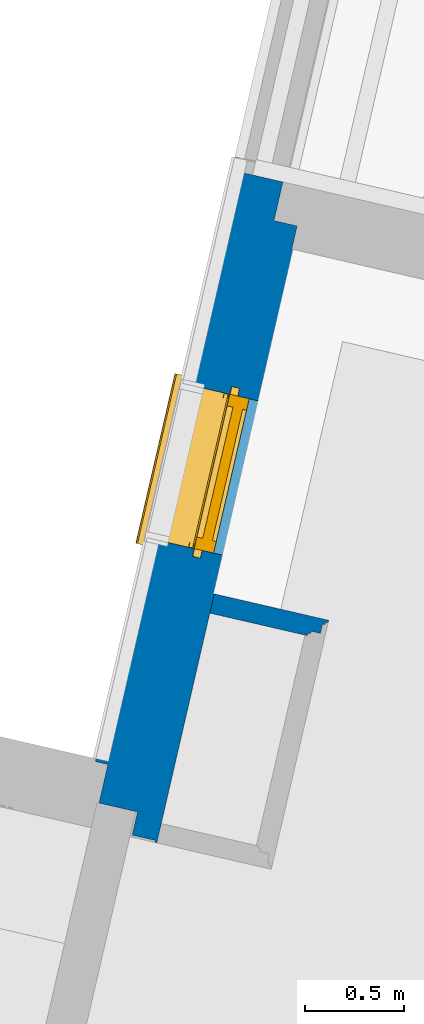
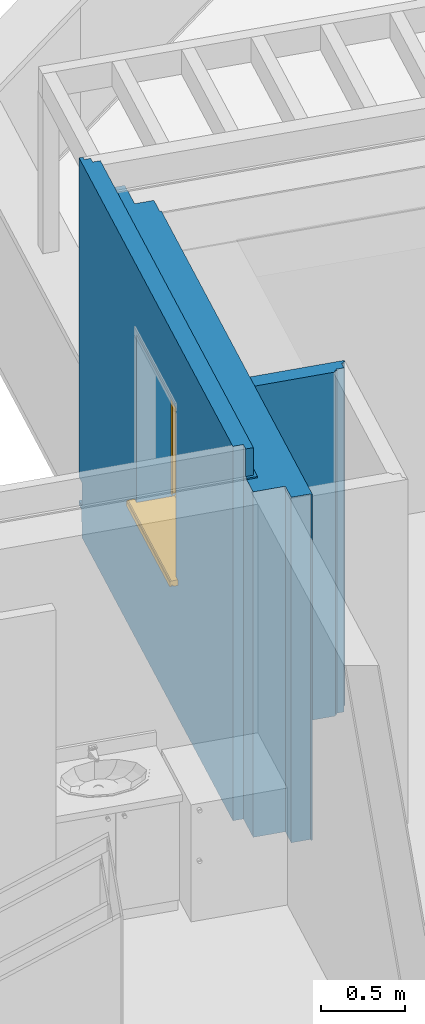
# One storey, part 33 of 62: 2 walls, 1 window, 1 opening.
"""IFC2X3 building model written with IfcOpenShell, lengths in metres."""

import ifcopenshell
import ifcopenshell.guid

model = None  # the IFC model being written
_history = None  # IfcOwnerHistory: only IFC2X3 demands one
_inside = {}  # id of a spatial element -> (the spatial element, [elements in it])
_under = {}  # id of a project, library or spatial element -> (it, [spatial elements below it])
_declared = {}  # id of a project -> (the project, [libraries it declares])
_typed = {}  # id of a type object -> (the type object, [elements of that type])
_made_of = {}  # id of a material, layer set ... -> (it, [elements and type objects made of it])


def new_model(schema):
    """Start an empty IFC model of exactly this schema.

    Asked for "IFC4X3", IfcOpenShell would pick the latest addendum, in which some entities
    have other attributes; the version numbers below select the first issue.
    IFC2X3 requires an IfcOwnerHistory on every rooted entity: one is made here for all.
    """
    global model, _history
    if schema == "IFC4X3":
        model = ifcopenshell.file(schema_version=(4, 3, 0, 0))
    else:
        model = ifcopenshell.file(schema=schema)
    _inside.clear()
    _under.clear()
    _declared.clear()
    _typed.clear()
    _made_of.clear()
    _history = None
    if model.schema == "IFC2X3":
        org = make("IfcOrganization", Name="unknown")
        user = make(
            "IfcPersonAndOrganization",
            ThePerson=make("IfcPerson", FamilyName="unknown"),
            TheOrganization=org,
        )
        app = make(
            "IfcApplication",
            ApplicationDeveloper=org,
            Version="unknown",
            ApplicationFullName="unknown",
            ApplicationIdentifier="unknown",
        )
        _history = make(
            "IfcOwnerHistory",
            OwningUser=user,
            OwningApplication=app,
            ChangeAction="ADDED",
            CreationDate=0,
        )
    return model


def make(cls, **values):
    """One entity of the class cls with the attributes given. An attribute that is None is left unset."""
    return model.create_entity(
        cls, **{name: value for name, value in values.items() if value is not None}
    )


def entity(cls, *values):
    """Any entity or typed value of the class cls, its attributes in the order of the schema. None: left unset."""
    e = model.create_entity(cls)
    for i, value in enumerate(values):
        if value is not None:
            e[i] = value
    return e


def rooted(cls, **values):
    """An entity with a GlobalId (a new one), such as an element, a storey or a relation."""
    return make(cls, GlobalId=ifcopenshell.guid.new(), OwnerHistory=_history, **values)


def si_unit(unit_type, name, prefix=None):
    """IfcSIUnit, for example si_unit("LENGTHUNIT", "METRE", prefix="MILLI")."""
    return make("IfcSIUnit", UnitType=unit_type, Prefix=prefix, Name=name)


def converted_unit(unit_type, name, factor, base, dimensions=None, offset=None):
    """IfcConversionBasedUnit, such as the inch: factor (a typed value) times the base unit."""
    return make(
        "IfcConversionBasedUnit"
        if offset is None
        else "IfcConversionBasedUnitWithOffset",
        ConversionOffset=offset,
        Dimensions=None
        if dimensions is None
        else entity("IfcDimensionalExponents", *dimensions),
        UnitType=unit_type,
        Name=name,
        ConversionFactor=make(
            "IfcMeasureWithUnit", ValueComponent=factor, UnitComponent=base
        ),
    )


def derived_unit(unit_type, elements):
    """IfcDerivedUnit: a product of units, each with its exponent."""
    return make(
        "IfcDerivedUnit",
        Elements=[
            make("IfcDerivedUnitElement", Unit=unit, Exponent=power)
            for unit, power in elements
        ],
        UnitType=unit_type,
    )


def money_unit(currency):
    """IfcMonetaryUnit."""
    return make("IfcMonetaryUnit", Currency=currency)


def assignment(units):
    """IfcUnitAssignment: the units of a project."""
    return None if units is None else make("IfcUnitAssignment", Units=units)


def point(xyz):
    """IfcCartesianPoint."""
    return None if xyz is None else make("IfcCartesianPoint", Coordinates=xyz)


def direction(xyz):
    """IfcDirection."""
    return None if xyz is None else make("IfcDirection", DirectionRatios=xyz)


def frame(location, z_axis=None, x_axis=None):
    """IfcAxis2Placement3D, a coordinate frame: its origin and axes. An axis left out is left unset."""
    return make(
        "IfcAxis2Placement3D",
        Location=point(location),
        Axis=direction(z_axis),
        RefDirection=direction(x_axis),
    )


def origin_with_axes():
    """The frame at (0, 0, 0) with the z axis (0, 0, 1) and the x axis (1, 0, 0) written out."""
    return frame((0.0, 0.0, 0.0), z_axis=(0.0, 0.0, 1.0), x_axis=(1.0, 0.0, 0.0))


def place(relative_to, where):
    """IfcLocalPlacement: puts the frame where relative to a parent placement (None: the world)."""
    return make(
        "IfcLocalPlacement", PlacementRelTo=relative_to, RelativePlacement=where
    )


def context(
    kind, dimensions, precision=None, world=None, true_north=None, identifier=None
):
    """IfcGeometricRepresentationContext, for example the 3D "Model" context."""
    return make(
        "IfcGeometricRepresentationContext",
        ContextIdentifier=identifier,
        ContextType=kind,
        CoordinateSpaceDimension=dimensions,
        Precision=precision,
        WorldCoordinateSystem=world,
        TrueNorth=true_north,
    )


def subcontext(parent, identifier, kind, view, scale=None):
    """IfcGeometricRepresentationSubContext, for example "Body" below "Model"."""
    return make(
        "IfcGeometricRepresentationSubContext",
        ContextIdentifier=identifier,
        ContextType=kind,
        ParentContext=parent,
        TargetScale=scale,
        TargetView=view,
    )


def project(units=None, contexts=None):
    """IfcProject with its units and contexts."""
    return rooted(
        "IfcProject",
        Name="project",
        RepresentationContexts=contexts,
        UnitsInContext=assignment(units),
    )


def spatial(cls, under=None, at=None, **own):
    """A site, building, storey or space (cls), placed at a placement, below another one or the project."""
    s = rooted(cls, ObjectPlacement=at, **own)
    if under is not None:
        _under.setdefault(under.id(), (under, []))[1].append(s)
    return s


def faces_of(points, faces, orient=None, outer=None):
    """IfcFace entities. A face is a list of loops; a loop is a list of indices into points, from 0.

    orient and outer hold one flag for each loop. By default every Orientation is true, the
    first loop of a face is its IfcFaceOuterBound and the others are IfcFaceBound.
    """
    made = []
    for i, loops in enumerate(faces):
        bounds = []
        for j, loop in enumerate(loops):
            is_outer = j == 0 if outer is None else outer[i][j]
            bounds.append(
                make(
                    "IfcFaceOuterBound" if is_outer else "IfcFaceBound",
                    Bound=make("IfcPolyLoop", Polygon=[points[k] for k in loop]),
                    Orientation=True if orient is None else orient[i][j],
                )
            )
        made.append(make("IfcFace", Bounds=bounds))
    return made


def open_shell(faces, orient=None, outer=None):
    """The faces of one IfcOpenShell. surface_model builds it on its shared points."""
    return ("IfcOpenShell", faces, orient, outer)


def faceted_brep(points, faces, orient=None, outer=None, voids=None):
    """IfcFacetedBrep: a solid bounded by flat faces; with voids (closed shells), ...WithVoids."""
    shared = [point(p) for p in points]
    hull = make("IfcClosedShell", CfsFaces=faces_of(shared, faces, orient, outer))
    if voids is None:
        return make("IfcFacetedBrep", Outer=hull)
    return make(
        "IfcFacetedBrepWithVoids",
        Outer=hull,
        Voids=[
            make(cls, CfsFaces=faces_of(shared, fs, o, b)) for cls, fs, o, b in voids
        ],
    )


def surface_model(cls, points, shells):
    """IfcFaceBasedSurfaceModel or IfcShellBasedSurfaceModel (cls): surfaces that need not close."""
    shared = [point(p) for p in points]
    made = [make(c, CfsFaces=faces_of(shared, fs, o, b)) for c, fs, o, b in shells]
    if cls == "IfcFaceBasedSurfaceModel":
        return make(cls, FbsmFaces=made)
    return make(cls, SbsmBoundary=made)


def shape(context_of_items, identifier, shape_type, items):
    """IfcShapeRepresentation: the items that make up one representation, for example the "Body"."""
    return make(
        "IfcShapeRepresentation",
        ContextOfItems=context_of_items,
        RepresentationIdentifier=identifier,
        RepresentationType=shape_type,
        Items=items,
    )


def material(Name=None, Category=None):
    """IfcMaterial."""
    return make("IfcMaterial", Name=Name, Category=Category)


def material_list(materials):
    """IfcMaterialList."""
    return make("IfcMaterialList", Materials=materials)


def made_of(thing, what):
    """Note that an element or type object is made of a material, layer set ...; save() writes the relation."""
    if what is not None:
        _made_of.setdefault(what.id(), (what, []))[1].append(thing)
    return thing


def type_object(cls, material=None, **own):
    """A type object (cls), such as IfcWallType, which elements share."""
    return made_of(rooted(cls, **own), material)


def element(
    cls,
    number,
    at=None,
    inside=None,
    cuts=None,
    type_object=None,
    material=None,
    context=None,
    identifier="Body",
    shape_type=None,
    held_by="IfcProductDefinitionShape",
    body=None,
    shapes=None,
    **own,
):
    """One element of the class cls, such as IfcWall. Its Tag is "e" and its number.

    at: its placement. inside: the storey or other place that contains it. cuts: it is an
    opening in that element (IfcRelVoidsElement). A single representation is given by context,
    identifier, shape_type and body (its items); several are given by shapes. held_by: the class
    of the entity that holds the representations. save() writes the other relations.
    """
    e = rooted(cls, Tag="e%d" % number, ObjectPlacement=at, **own)
    if body is not None:
        shapes = [shape(context, identifier, shape_type, body)]
    if shapes is not None:
        e.Representation = make(held_by, Representations=shapes)
    if inside is not None:
        _inside.setdefault(inside.id(), (inside, []))[1].append(e)
    if cuts is not None:
        rooted(
            "IfcRelVoidsElement", RelatingBuildingElement=cuts, RelatedOpeningElement=e
        )
    if type_object is not None:
        _typed.setdefault(type_object.id(), (type_object, []))[1].append(e)
    return made_of(e, material)


def fill(opening, filler):
    """IfcRelFillsElement: the door or window that sits in an opening."""
    return rooted(
        "IfcRelFillsElement",
        RelatingOpeningElement=opening,
        RelatedBuildingElement=filler,
    )


def aggregate(whole, parts):
    """IfcRelAggregates: a whole, such as a stair, and the parts it consists of."""
    return rooted("IfcRelAggregates", RelatingObject=whole, RelatedObjects=parts)


def save(model, path):
    """Write the relations noted so far, then the file.

    IfcRelAggregates (storeys below a building ...), IfcRelContainedInSpatialStructure (elements
    in a storey), IfcRelDefinesByType, IfcRelAssociatesMaterial and IfcRelDeclares: one each for
    every whole, place, type object, material and project.
    """
    for whole, parts in _under.values():
        aggregate(whole, parts)
    for where, things in _inside.values():
        rooted(
            "IfcRelContainedInSpatialStructure",
            RelatedElements=things,
            RelatingStructure=where,
        )
    for kind, things in _typed.values():
        rooted("IfcRelDefinesByType", RelatedObjects=things, RelatingType=kind)
    for what, things in _made_of.values():
        rooted("IfcRelAssociatesMaterial", RelatedObjects=things, RelatingMaterial=what)
    for by, libraries in _declared.values():
        rooted("IfcRelDeclares", RelatingContext=by, RelatedDefinitions=libraries)
    model.write(path)


model = new_model("IFC2X3")

# Units and contexts
model_context = context("Model", 3, precision=1e-05, world=origin_with_axes(), true_north=direction((0.0, 1.0)))
body_context = subcontext(model_context, "Body", "Model", "MODEL_VIEW")
ifc_project = project(units=[si_unit("LENGTHUNIT", "METRE"), si_unit("AREAUNIT", "SQUARE_METRE"), si_unit("VOLUMEUNIT", "CUBIC_METRE"), converted_unit("PLANEANGLEUNIT", "DEGREE", entity("IfcPlaneAngleMeasure", 0.0174532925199), si_unit("PLANEANGLEUNIT", "RADIAN"), dimensions=[0, 0, 0, 0, 0, 0, 0]), si_unit("SOLIDANGLEUNIT", "STERADIAN"), money_unit("EUR"), converted_unit("TIMEUNIT", "Year", entity("IfcTimeMeasure", 31556926.0), si_unit("TIMEUNIT", "SECOND"), dimensions=[0, 0, 1, 0, 0, 0, 0]), si_unit("MASSUNIT", "GRAM", prefix="KILO"), si_unit("THERMODYNAMICTEMPERATUREUNIT", "DEGREE_CELSIUS"), si_unit("LUMINOUSINTENSITYUNIT", "LUMEN"), si_unit("ENERGYUNIT", "JOULE", prefix="MEGA"), derived_unit("THERMALCONDUCTANCEUNIT", [(si_unit("POWERUNIT", "WATT"), 1), (si_unit("LENGTHUNIT", "METRE"), -1), (si_unit("THERMODYNAMICTEMPERATUREUNIT", "KELVIN"), -1)]), derived_unit("SPECIFICHEATCAPACITYUNIT", [(si_unit("ENERGYUNIT", "JOULE"), 1), (si_unit("MASSUNIT", "GRAM", prefix="KILO"), -1), (si_unit("THERMODYNAMICTEMPERATUREUNIT", "KELVIN"), -1)]), derived_unit("MASSDENSITYUNIT", [(si_unit("MASSUNIT", "GRAM", prefix="KILO"), 1), (si_unit("VOLUMEUNIT", "CUBIC_METRE"), -1)])], contexts=[model_context])

# Site, building, storey
site_placement = place(None, origin_with_axes())
site = spatial("IfcSite", under=ifc_project, at=site_placement, Name="Site", CompositionType="ELEMENT")
building_placement = place(site_placement, origin_with_axes())
building = spatial("IfcBuilding", under=site, at=building_placement, Name="Bâtiment", CompositionType="ELEMENT")
storey_placement = place(building_placement, frame((0.0, 0.0, 8.16), z_axis=(0.0, 0.0, 1.0), x_axis=(1.0, 0.0, 0.0)))
storey = spatial("IfcBuildingStorey", under=building, at=storey_placement, Name="R+3", CompositionType="ELEMENT", Elevation=8.16)

# Wall
ifc_material_1 = material(Name="Finition int - Plaque de plâtre")
ifc_material_2 = material(Name="Isolation - Laine de roche")
ifc_material_list_1 = material_list([ifc_material_1, ifc_material_1, ifc_material_2, ifc_material_1, ifc_material_1])
wall_type_1 = type_object("IfcWallType", Name="3 - Cloison Gaine Technique 98mm 100", PredefinedType="USERDEFINED")
wall_1_placement = place(storey_placement, frame((-7.64889029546, 12.647863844, 0.0), z_axis=(0.0, 0.0, 1.0), x_axis=(0.974387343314, -0.224876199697, 0.0)))
element("IfcWall", 1, at=wall_1_placement, inside=storey, type_object=wall_type_1, material=ifc_material_list_1, Name="Cloison 98 isolée", ObjectType="PARTITIONING", context=body_context, shape_type="Brep", body=[
    faceted_brep([(0.593000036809, -0.013, 2.5), (0.593000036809, 0.0, 2.5), (0.0, 0.0, 2.5), (0.0, -0.013, 2.5), (0.593000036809, -0.013, 0.0), (0.593000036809, 0.0, 0.0), (0.0, 0.0, 0.0), (0.0, -0.013, 0.0)], [[[0, 1, 2, 3]], [[1, 0, 4, 5]], [[1, 5, 6, 2]], [[7, 3, 2, 6]], [[4, 0, 3, 7]], [[5, 4, 7, 6]]]),
    faceted_brep([(0.580000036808, -0.026, 2.5), (0.580000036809, -0.013, 2.5), (0.0, -0.013, 2.5), (0.0, -0.026, 2.5), (0.580000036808, -0.026, 0.0), (0.580000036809, -0.013, 0.0), (0.0, -0.013, 0.0), (0.0, -0.026, 0.0)], [[[0, 1, 2, 3]], [[1, 0, 4, 5]], [[1, 5, 6, 2]], [[7, 3, 2, 6]], [[4, 0, 3, 7]], [[5, 4, 7, 6]]]),
    faceted_brep([(0.567000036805, -0.074, 2.5), (0.567000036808, -0.026, 2.5), (0.0, -0.026, 2.5), (0.0, -0.074, 2.5), (0.567000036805, -0.074, 0.0), (0.567000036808, -0.026, 0.0), (0.0, -0.026, 0.0), (0.0, -0.074, 0.0)], [[[0, 1, 2, 3]], [[1, 0, 4, 5]], [[1, 5, 6, 2]], [[7, 3, 2, 6]], [[4, 0, 3, 7]], [[5, 4, 7, 6]]]),
    faceted_brep([(0.519000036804, -0.087, 2.5), (0.519000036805, -0.074, 2.5), (0.0, -0.074, 2.5), (0.0, -0.087, 2.5), (0.519000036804, -0.087, 0.0), (0.519000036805, -0.074, 0.0), (0.0, -0.074, 0.0), (0.0, -0.087, 0.0)], [[[0, 1, 2, 3]], [[1, 0, 4, 5]], [[1, 5, 6, 2]], [[7, 3, 2, 6]], [[4, 0, 3, 7]], [[5, 4, 7, 6]]]),
    faceted_brep([(0.506000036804, -0.1, 2.5), (0.506000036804, -0.087, 2.5), (0.0, -0.087, 2.5), (0.0, -0.1, 2.5), (0.506000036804, -0.1, 0.0), (0.506000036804, -0.087, 0.0), (0.0, -0.087, 0.0), (0.0, -0.1, 0.0)], [[[0, 1, 2, 3]], [[1, 0, 4, 5]], [[1, 5, 6, 2]], [[7, 3, 2, 6]], [[4, 0, 3, 7]], [[5, 4, 7, 6]]]),
])

# Wall, opening, window
ifc_material_3 = material(Name="Isolation - Polystyrène extrudé")
ifc_material_4 = material(Name="Bloc ELITHERM")
ifc_material_5 = material(Name="Mortier")
ifc_material_6 = material(Name="Béton cellulaire")
ifc_material_7 = material(Name="Bois - Lattage")
ifc_material_8 = material(Name="Finition ext - Bardage bois")
ifc_material_list_2 = material_list([ifc_material_1, ifc_material_3, ifc_material_4, ifc_material_5, ifc_material_6, ifc_material_7, ifc_material_8])
wall_type_2 = type_object("IfcWallType", Name="Mur ALKERN + planelle 21 BARDAGE courant 395 x 2720", PredefinedType="USERDEFINED")
wall_2_placement = place(storey_placement, frame((-7.49707256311, 14.8398666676, 0.0), z_axis=(0.0, 0.0, 1.0), x_axis=(-0.224876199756, -0.9743873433, 0.0)))
wall_2 = element("IfcWall", 2, at=wall_2_placement, inside=storey, type_object=wall_type_2, material=ifc_material_list_2, Name="Mue bloc ALKERN isolé", ObjectType="SOLIDWALL", context=body_context, shape_type="Brep", body=[
    faceted_brep([(1.97000000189, 0.340000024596, 2.22), (1.97000000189, 0.340000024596, 2.4), (1.17000000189, 0.340000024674, 2.4), (1.17000000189, 0.340000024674, 2.22), (1.17000000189, 0.340000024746, 2.2), (0.385000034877, 0.340000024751, 2.2), (0.385000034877, 0.340000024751, 2.5), (2.1700000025, 0.340000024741, 2.5), (2.1700000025, 0.340000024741, 2.2), (1.97000000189, 0.340000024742, 2.2), (1.97000000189, 0.335000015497, 2.22), (1.97000000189, 0.335000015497, 2.4), (1.17000000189, 0.335000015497, 2.4), (1.17000000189, 0.335000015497, 2.22), (1.17000000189, 0.335000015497, 1.02), (1.17000000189, 0.34499998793, 1.02), (1.17000000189, 0.34499998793, 2.2), (0.385000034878, 0.34499998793, 2.2), (0.384999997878, 0.34499998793, 0.399999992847), (0.384999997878, 0.335000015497, 0.399999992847), (0.384999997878, 0.335000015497, 2.51), (0.384999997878, 0.34499998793, 2.51), (0.385000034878, 0.34499998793, 2.49999999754), (2.1700000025, 0.34499998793, 2.49999999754), (2.1700000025, 0.34499998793, 2.2), (1.97000000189, 0.34499998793, 2.2), (1.97000000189, 0.34499998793, 1.02), (1.97000000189, 0.335000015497, 1.02), (0.384999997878, 0.335000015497, 0.229999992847), (0.384999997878, 0.335000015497, 0.2), (0.384999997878, 0.335000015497, 0.109999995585), (0.384999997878, 0.335000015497, 0.0), (3.46057293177, 0.335000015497, 0.0), (3.46057293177, 0.335000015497, 2.51000000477), (3.46057293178, 0.34499998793, 2.51000000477), (3.46057293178, 0.34499998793, 0.0), (0.384999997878, 0.34499998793, 0.0), (0.384999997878, 0.34499998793, 0.109999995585), (0.384999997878, 0.34499998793, 0.2), (0.384999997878, 0.34499998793, 0.229999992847)], [[[0, 1, 2, 3, 4, 5, 6, 7, 8, 9]], [[1, 0, 10, 11]], [[2, 1, 11, 12]], [[3, 2, 12, 13]], [[3, 13, 14, 15, 16, 4]], [[16, 17, 5, 4]], [[18, 19, 20, 21, 22, 6, 5, 17]], [[23, 7, 6, 22]], [[8, 7, 23, 24]], [[9, 8, 24, 25]], [[10, 0, 9, 25, 26, 27]], [[19, 28, 29, 30, 31, 32, 33, 20], [11, 10, 27, 14, 13, 12]], [[15, 14, 27, 26]], [[17, 16, 15, 26, 25, 24, 23, 22, 21, 34, 35, 36, 37, 38, 39, 18]], [[18, 39, 28, 19]], [[20, 33, 34, 21]], [[39, 38, 29, 28]], [[38, 37, 30, 29]], [[37, 36, 31, 30]], [[36, 35, 32, 31]], [[35, 34, 33, 32]]]),
    faceted_brep([(1.17000000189, 0.215000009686, 1.02), (1.17000000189, 0.236, 1.02), (1.17000000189, 0.335000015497, 1.02), (1.17000000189, 0.335000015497, 2.22), (1.17000000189, 0.215000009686, 2.22), (1.17000000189, 0.215000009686, 0.96), (1.17000000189, 0.236, 0.96), (1.97000000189, 0.236, 1.02), (1.97000000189, 0.335000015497, 1.02), (0.26499997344, 0.335000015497, 0.399999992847), (0.26499997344, 0.335000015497, 2.50999999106), (3.45057296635, 0.335000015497, 2.51), (3.45057296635, 0.335000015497, 0.0), (0.26499997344, 0.335000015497, 0.0), (0.26499997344, 0.335000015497, 0.109999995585), (0.26499997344, 0.335000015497, 0.2), (0.26499997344, 0.335000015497, 0.229999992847), (1.97000000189, 0.335000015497, 2.22), (1.97000000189, 0.335000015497, 2.4), (1.17000000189, 0.335000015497, 2.4), (1.17000000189, 0.215000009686, 2.4), (0.264999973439, 0.215000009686, 0.109999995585), (0.264999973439, 0.215000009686, 0.0), (3.45057296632, 0.215000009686, 0.0), (3.45057296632, 0.215000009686, 2.51), (0.264999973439, 0.215000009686, 2.50999999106), (0.264999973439, 0.215000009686, 0.399999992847), (0.264999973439, 0.215000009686, 0.229999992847), (0.264999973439, 0.215000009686, 0.2), (1.97000000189, 0.215000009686, 2.4), (1.97000000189, 0.215000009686, 2.22), (1.97000000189, 0.215000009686, 1.02), (1.97000000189, 0.215000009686, 0.96), (1.97000000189, 0.236, 0.96)], [[[0, 1, 2, 3, 4]], [[1, 0, 5, 6]], [[1, 7, 8, 2]], [[9, 10, 11, 12, 13, 14, 15, 16], [3, 2, 8, 17, 18, 19]], [[19, 20, 4, 3]], [[21, 22, 23, 24, 25, 26, 27, 28], [5, 0, 4, 20, 29, 30, 31, 32]], [[5, 32, 33, 6]], [[7, 1, 6, 33]], [[7, 31, 30, 17, 8]], [[9, 26, 25, 10]], [[10, 25, 24, 11]], [[24, 23, 12, 11]], [[22, 13, 12, 23]], [[13, 22, 21, 14]], [[14, 21, 28, 15]], [[15, 28, 27, 16]], [[16, 27, 26, 9]], [[17, 30, 29, 18]], [[18, 29, 20, 19]], [[31, 7, 33, 32]]]),
    faceted_brep([(1.17000000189, 0.195, 1.02), (1.17000000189, 0.214999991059, 1.02), (1.17000000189, 0.214999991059, 2.22), (1.17000000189, 0.195, 2.22), (1.17000000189, 0.214999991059, 0.96), (1.17000000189, 0.015, 1.02), (1.17000000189, 0.015, 0.96), (0.0650000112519, 0.214999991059, 0.109999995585), (0.0649999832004, 0.214999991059, 0.2), (0.0650000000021, 0.214999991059, 0.230000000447), (0.0649999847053, 0.214999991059, 0.399999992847), (0.0650000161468, 0.214999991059, 2.50999999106), (3.33057296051, 0.214999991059, 2.51), (3.33057296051, 0.214999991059, 0.0), (0.0649999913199, 0.214999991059, 0.0), (1.97000000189, 0.214999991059, 0.96), (1.97000000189, 0.214999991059, 1.02), (1.97000000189, 0.214999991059, 2.22), (1.97000000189, 0.214999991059, 2.4), (1.17000000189, 0.214999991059, 2.4), (1.17000000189, 0.165, 2.4), (1.17000000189, 0.165, 2.22), (1.17000000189, 0.015, 2.22), (0.0649999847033, 0.015, 0.399999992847), (0.0650000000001, 0.015, 0.230000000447), (0.0649999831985, 0.015, 0.2), (0.0650000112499, 0.015, 0.109999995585), (0.064999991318, 0.015, 0.0), (3.33057296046, 0.015, 0.0), (3.33057296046, 0.015, 2.51), (0.0650000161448, 0.015, 2.50999999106), (1.97000000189, 0.015, 2.22), (1.97000000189, 0.015, 1.02), (1.97000000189, 0.015, 0.96), (0.0650000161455, 0.0829999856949, 2.50999999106), (3.33057296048, 0.0829999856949, 2.51), (1.97000000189, 0.195, 1.02), (1.97000000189, 0.195, 2.22), (1.97000000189, 0.165, 2.22), (1.97000000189, 0.165, 2.4)], [[[0, 1, 2, 3]], [[4, 1, 0, 5, 6]], [[7, 8, 9, 10, 11, 12, 13, 14], [15, 16, 17, 18, 19, 2, 1, 4]], [[20, 21, 3, 2, 19]], [[5, 0, 3, 21, 22]], [[23, 24, 25, 26, 27, 28, 29, 30], [6, 5, 22, 31, 32, 33]], [[15, 4, 6, 33]], [[26, 25, 8, 7]], [[25, 24, 9, 8]], [[24, 23, 10, 9]], [[10, 23, 30, 34, 11]], [[34, 35, 12, 11]], [[35, 29, 28, 13, 12]], [[14, 13, 28, 27]], [[27, 26, 7, 14]], [[36, 16, 15, 33, 32]], [[16, 36, 37, 17]], [[37, 38, 39, 18, 17]], [[18, 39, 20, 19]], [[21, 20, 39, 38]], [[38, 31, 22, 21]], [[30, 29, 35, 34]], [[36, 32, 31, 38, 37]]]),
    faceted_brep([(0.0650000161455, 0.083, 2.50999999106), (0.0650000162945, 0.083, 2.51999999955), (3.19857295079, 0.083, 2.51999998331), (3.19857295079, 0.083, 2.51000000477), (0.0650000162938, 0.015, 2.51999999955), (0.0650000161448, 0.015, 2.50999999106), (3.19857295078, 0.015, 2.51999998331), (3.19857295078, 0.015, 2.51000000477)], [[[0, 1, 2, 3]], [[4, 1, 0, 5]], [[1, 4, 6, 2]], [[7, 3, 2, 6]], [[5, 0, 3, 7]], [[4, 5, 7, 6]]]),
    faceted_brep([(3.17857295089, 0.015, 2.72), (3.1785729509, 0.0629999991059, 2.72), (0.0650000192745, 0.0629999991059, 2.72), (0.065000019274, 0.015, 2.72), (3.1785729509, 0.0629999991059, 2.51999999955), (3.17857295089, 0.015, 2.51999999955), (0.0650000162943, 0.0629999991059, 2.51999999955), (0.0650000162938, 0.015, 2.51999999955)], [[[0, 1, 2, 3]], [[4, 1, 0, 5]], [[1, 4, 6, 2]], [[3, 2, 6, 7]], [[5, 0, 3, 7]], [[4, 5, 7, 6]]]),
    faceted_brep([(1.17000000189, -0.0249999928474, 1.02), (1.17000000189, 0.0150000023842, 1.02), (1.17000000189, 0.0150000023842, 2.22), (1.17000000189, -0.0249999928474, 2.22), (1.17000000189, 0.0150000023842, 0.96), (1.17000000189, -0.0249999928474, 0.96), (0.0650000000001, 0.0150000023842, 0.230000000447), (0.0650000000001, 0.0150000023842, 0.4), (0.0600000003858, 0.0150000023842, 0.4), (0.0250000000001, 0.0150000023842, 0.4), (0.0250000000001, 0.0150000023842, 2.50999999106), (0.0250000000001, 0.0150000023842, 2.51999999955), (0.0250000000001, 0.0150000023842, 2.72), (3.13057295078, 0.0150000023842, 2.72), (3.13057295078, 0.0150000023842, 2.51999999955), (3.13057295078, 0.0150000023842, 2.51), (3.13057295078, 0.0150000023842, 0.0), (0.064999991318, 0.0150000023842, 0.0), (0.0650000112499, 0.0150000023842, 0.109999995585), (0.0649999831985, 0.0150000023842, 0.2), (1.97000000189, 0.0150000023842, 0.96), (1.97000000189, 0.0150000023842, 1.02), (1.97000000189, 0.0150000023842, 2.22), (1.97000000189, -0.0249999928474, 2.22), (0.0649999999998, -0.0249999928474, 0.4), (0.0649999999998, -0.0249999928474, 0.230000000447), (0.0649999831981, -0.0249999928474, 0.2), (0.0650000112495, -0.0249999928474, 0.109999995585), (0.0649999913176, -0.0249999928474, 0.0), (3.13057295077, -0.0249999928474, 0.0), (3.13057295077, -0.0249999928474, 2.51), (3.13057295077, -0.0249999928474, 2.51999999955), (3.13057295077, -0.0249999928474, 2.72), (0.0249999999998, -0.0249999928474, 2.72), (0.0249999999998, -0.0249999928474, 2.51999999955), (0.0249999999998, -0.0249999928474, 2.50999999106), (0.0249999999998, -0.0249999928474, 0.4), (0.0600000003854, -0.0249999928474, 0.4), (1.97000000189, -0.0249999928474, 1.02), (1.97000000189, -0.0249999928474, 0.96)], [[[0, 1, 2, 3]], [[4, 1, 0, 5]], [[6, 7, 8, 9, 10, 11, 12, 13, 14, 15, 16, 17, 18, 19], [20, 21, 22, 2, 1, 4]], [[22, 23, 3, 2]], [[24, 25, 26, 27, 28, 29, 30, 31, 32, 33, 34, 35, 36, 37], [5, 0, 3, 23, 38, 39]], [[20, 4, 5, 39]], [[6, 25, 24, 7]], [[8, 7, 24, 37]], [[9, 8, 37, 36]], [[10, 9, 36, 35]], [[11, 10, 35, 34]], [[12, 11, 34, 33]], [[13, 12, 33, 32]], [[13, 32, 31, 14]], [[31, 30, 15, 14]], [[30, 29, 16, 15]], [[29, 28, 17, 16]], [[18, 17, 28, 27]], [[19, 18, 27, 26]], [[6, 19, 26, 25]], [[38, 21, 20, 39]], [[21, 38, 23, 22]]]),
    faceted_brep([(1.17000000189, -0.05, 1.02), (1.17000000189, -0.025, 1.02), (1.17000000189, -0.025, 2.22), (1.17000000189, -0.05, 2.22), (1.17000000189, -0.025, 0.96), (1.17000000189, -0.05, 0.96), (-0.00268891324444, -0.025, 0.229999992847), (0.0550000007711, -0.025, 0.230000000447), (0.0649999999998, -0.025, 0.230000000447), (0.0649999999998, -0.025, 0.4), (0.0600000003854, -0.025, 0.4), (-3.97955288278e-07, -0.025, 0.399999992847), (4.56884452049e-07, -0.025, 2.72), (3.13057295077, -0.025, 2.72), (3.13057295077, -0.025, 0.0), (0.0649999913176, -0.025, 0.0), (0.0650000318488, -0.025, 0.110000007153), (0.0549999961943, -0.025, 0.110000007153), (0.0550000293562, -0.025, 0.200000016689), (-0.00268891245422, -0.025, 0.2), (1.97000000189, -0.025, 0.96), (1.97000000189, -0.025, 1.02), (1.97000000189, -0.025, 2.22), (1.97000000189, -0.05, 2.22), (-0.00268891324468, -0.05, 0.229999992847), (-0.00268891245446, -0.05, 0.2), (0.055000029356, -0.05, 0.200000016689), (0.0549999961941, -0.05, 0.110000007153), (0.0650000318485, -0.05, 0.110000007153), (0.0649999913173, -0.05, 0.0), (3.13057295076, -0.05, 0.0), (3.13057295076, -0.05, 2.72), (4.56884206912e-07, -0.05, 2.72), (-3.97955535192e-07, -0.05, 0.399999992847), (0.0600000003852, -0.05, 0.4), (0.0649999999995, -0.05, 0.4), (0.0649999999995, -0.05, 0.230000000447), (0.0550000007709, -0.05, 0.230000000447), (1.97000000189, -0.05, 1.02), (1.97000000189, -0.05, 0.96)], [[[0, 1, 2, 3]], [[4, 1, 0, 5]], [[6, 7, 8, 9, 10, 11, 12, 13, 14, 15, 16, 17, 18, 19], [20, 21, 22, 2, 1, 4]], [[22, 23, 3, 2]], [[24, 25, 26, 27, 28, 29, 30, 31, 32, 33, 34, 35, 36, 37], [5, 0, 3, 23, 38, 39]], [[20, 4, 5, 39]], [[6, 24, 37, 7]], [[7, 37, 36, 8]], [[8, 36, 35, 9]], [[10, 9, 35, 34]], [[34, 33, 11, 10]], [[32, 12, 11, 33]], [[13, 12, 32, 31]], [[31, 30, 14, 13]], [[30, 29, 15, 14]], [[16, 15, 29, 28]], [[17, 16, 28, 27]], [[18, 17, 27, 26]], [[19, 18, 26, 25]], [[6, 19, 25, 24]], [[38, 21, 20, 39]], [[21, 38, 23, 22]]]),
])
opening_placement = place(wall_2_placement, frame((1.57000000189, 0.0, 1.02), z_axis=(0.0, 0.0, 1.0), x_axis=(1.0, 0.0, 0.0)))
opening = element("IfcOpeningElement", 3, at=opening_placement, cuts=wall_2, Name="MEN 105", context=body_context, shape_type="Brep", body=[
    faceted_brep([(0.4, 0.195, 0.0), (-0.4, 0.195, 0.0), (-0.4, 0.83499998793, 0.0), (0.4, 0.83499998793, 0.0), (0.4, 0.195, 1.2), (-0.4, 0.195, 1.2), (-0.4, 0.83499998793, 1.2), (0.4, 0.83499998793, 1.2)], [[[0, 1, 2, 3]], [[0, 4, 5, 1]], [[1, 5, 6, 2]], [[3, 2, 6, 7]], [[4, 0, 3, 7]], [[5, 4, 7, 6]]]),
    faceted_brep([(0.4, 0.195, 0.0), (0.4, 0.195, 1.2), (0.4, -0.44499998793, 1.2), (0.4, -0.44499998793, 0.0), (-0.4, 0.195, 0.0), (-0.4, 0.195, 1.2), (-0.4, -0.44499998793, 1.2), (-0.4, -0.44499998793, 0.0)], [[[0, 1, 2, 3]], [[0, 4, 5, 1]], [[1, 5, 6, 2]], [[3, 2, 6, 7]], [[4, 0, 3, 7]], [[5, 4, 7, 6]]]),
    faceted_brep([(0.4, 0.195, 0.0), (0.4, 0.195, 1.2), (0.4, -0.44499998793, 1.2), (0.4, -0.44499998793, 0.0), (-0.4, 0.195, 0.0), (-0.4, 0.195, 1.2), (-0.4, -0.44499998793, 1.2), (-0.4, -0.44499998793, 0.0)], [[[0, 1, 2, 3]], [[0, 4, 5, 1]], [[1, 5, 6, 2]], [[3, 2, 6, 7]], [[4, 0, 3, 7]], [[5, 4, 7, 6]]]),
    faceted_brep([(0.4, 0.165, 1.2), (-0.4, 0.165, 1.2), (-0.4, 0.80499998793, 1.2), (0.4, 0.80499998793, 1.2), (0.4, 0.165, 1.38), (-0.4, 0.165, 1.38), (-0.4, 0.80499998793, 1.38), (0.4, 0.80499998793, 1.38)], [[[0, 1, 2, 3]], [[0, 4, 5, 1]], [[1, 5, 6, 2]], [[3, 2, 6, 7]], [[4, 0, 3, 7]], [[5, 4, 7, 6]]]),
    faceted_brep([(0.4, 0.236, 0.0), (-0.4, 0.236, 0.0), (-0.4, -0.40399998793, 0.0), (0.4, -0.40399998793, 0.0), (0.4, 0.236, -0.06), (-0.4, 0.236, -0.06), (-0.4, -0.40399998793, -0.06), (0.4, -0.40399998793, -0.06)], [[[0, 1, 2, 3]], [[0, 4, 5, 1]], [[1, 5, 6, 2]], [[3, 2, 6, 7]], [[4, 0, 3, 7]], [[5, 4, 7, 6]]]),
])
window_style = type_object("IfcWindowStyle", Name="Baie générique 2017 v2", ConstructionType="NOTDEFINED", OperationType="NOTDEFINED", ParameterTakesPrecedence=False, Sizeable=False)
window_placement = place(opening_placement, frame((-0.4, 0.0, 0.0), z_axis=(0.0, 0.0, 1.0), x_axis=(1.0, 0.0, 0.0)))
window = element("IfcWindow", 4, at=window_placement, inside=storey, type_object=window_style, Name="MEN 105", ObjectType="WINDOW", OverallHeight=1.2, OverallWidth=0.8, context=body_context, shape_type="SurfaceModel", body=[
    faceted_brep([(0.8, 0.295, 0.0), (0.8, 0.195, 0.0), (0.0, 0.195, 0.0), (0.0, 0.295, 0.0), (0.8, 0.295, 1.2), (0.8, 0.195, 1.2), (0.0, 0.195, 1.2), (0.74, 0.195, 0.05), (0.06, 0.195, 0.05), (0.06, 0.195, 1.15), (0.74, 0.195, 1.15), (0.0, 0.295, 1.2), (0.74, 0.295, 0.05), (0.74, 0.295, 1.15), (0.06, 0.295, 1.15), (0.06, 0.295, 0.05)], [[[0, 1, 2, 3]], [[4, 5, 1, 0]], [[1, 5, 6, 2], [7, 8, 9, 10]], [[3, 2, 6, 11]], [[0, 3, 11, 4], [12, 13, 14, 15]], [[11, 6, 5, 4]], [[15, 8, 7, 12]], [[14, 9, 8, 15]], [[13, 10, 9, 14]], [[12, 7, 10, 13]]]),
    faceted_brep([(0.06, 0.275, 1.15), (0.74, 0.275, 1.15), (0.74, 0.275, 0.05), (0.06, 0.275, 0.05), (0.13, 0.275, 1.08), (0.13, 0.275, 0.1), (0.67, 0.275, 0.1), (0.67, 0.275, 1.08), (0.06, 0.225, 1.15), (0.74, 0.225, 1.15), (0.74, 0.225, 0.05), (0.06, 0.225, 0.05), (0.13, 0.225, 1.08), (0.13, 0.225, 0.1), (0.67, 0.225, 0.1), (0.67, 0.225, 1.08)], [[[0, 1, 2, 3], [4, 5, 6, 7]], [[0, 8, 9, 1]], [[9, 10, 2, 1]], [[10, 11, 3, 2]], [[3, 11, 8, 0]], [[4, 12, 13, 5]], [[13, 14, 6, 5]], [[14, 15, 7, 6]], [[7, 15, 12, 4]], [[9, 8, 11, 10], [13, 12, 15, 14]]]),
    surface_model("IfcShellBasedSurfaceModel", [(0.74, 0.275, 0.05), (0.74, 0.275, 1.15), (0.74, 0.25, 1.15), (0.74, 0.25, 0.05)], [open_shell([[[0, 1, 2, 3]]])]),
    surface_model("IfcShellBasedSurfaceModel", [(0.06, 0.275, 0.05), (0.06, 0.275, 1.15), (0.06, 0.25, 1.15), (0.06, 0.25, 0.05)], [open_shell([[[0, 1, 2, 3]]])]),
    surface_model("IfcShellBasedSurfaceModel", [(0.74, 0.275, 0.05), (0.06, 0.275, 0.05), (0.06, 0.25, 0.05), (0.74, 0.25, 0.05)], [open_shell([[[0, 1, 2, 3]]])]),
    surface_model("IfcShellBasedSurfaceModel", [(0.74, 0.275, 1.15), (0.06, 0.275, 1.15), (0.06, 0.25, 1.15), (0.74, 0.25, 1.15)], [open_shell([[[0, 1, 2, 3]]])]),
    surface_model("IfcShellBasedSurfaceModel", [(0.74, 0.25, 0.05), (0.74, 0.25, 1.15), (0.74, 0.225, 1.15), (0.74, 0.225, 0.05)], [open_shell([[[0, 1, 2, 3]]])]),
    surface_model("IfcShellBasedSurfaceModel", [(0.06, 0.25, 0.05), (0.06, 0.25, 1.15), (0.06, 0.225, 1.15), (0.06, 0.225, 0.05)], [open_shell([[[0, 1, 2, 3]]])]),
    surface_model("IfcShellBasedSurfaceModel", [(0.74, 0.25, 0.05), (0.06, 0.25, 0.05), (0.06, 0.225, 0.05), (0.74, 0.225, 0.05)], [open_shell([[[0, 1, 2, 3]]])]),
    surface_model("IfcShellBasedSurfaceModel", [(0.74, 0.25, 1.15), (0.06, 0.25, 1.15), (0.06, 0.225, 1.15), (0.74, 0.225, 1.15)], [open_shell([[[0, 1, 2, 3]]])]),
    faceted_brep([(0.67, 0.2525, 0.1), (0.67, 0.2475, 0.1), (0.13, 0.2475, 0.1), (0.13, 0.2525, 0.1), (0.67, 0.2525, 1.08), (0.67, 0.2475, 1.08), (0.13, 0.2475, 1.08), (0.13, 0.2525, 1.08)], [[[0, 1, 2, 3]], [[4, 5, 1, 0]], [[1, 5, 6, 2]], [[3, 2, 6, 7]], [[0, 3, 7, 4]], [[7, 6, 5, 4]]]),
    faceted_brep([(0.8, 0.165, 0.0), (0.8, 0.165, 1.2), (0.775, 0.165, 1.2), (0.775, 0.165, 0.0), (0.8, 0.193, 0.0), (0.8, 0.193, 1.2), (0.775, 0.193, 1.2), (0.775, 0.191, 1.2), (0.798, 0.191, 1.2), (0.798, 0.167, 1.2), (0.775, 0.167, 1.2), (0.775, 0.167, 0.0), (0.798, 0.167, 0.0), (0.798, 0.191, 0.0), (0.775, 0.191, 0.0), (0.775, 0.193, 0.0)], [[[0, 1, 2, 3]], [[4, 5, 1, 0]], [[1, 5, 6, 7, 8, 9, 10, 2]], [[3, 2, 10, 11]], [[0, 3, 11, 12, 13, 14, 15, 4]], [[15, 6, 5, 4]], [[14, 7, 6, 15]], [[13, 8, 7, 14]], [[12, 9, 8, 13]], [[11, 10, 9, 12]]]),
    faceted_brep([(0.0, 0.165, 0.0), (0.025, 0.165, 0.0), (0.025, 0.165, 1.2), (0.0, 0.165, 1.2), (0.0, 0.193, 0.0), (0.025, 0.193, 0.0), (0.025, 0.191, 0.0), (0.002, 0.191, 0.0), (0.002, 0.167, 0.0), (0.025, 0.167, 0.0), (0.025, 0.167, 1.2), (0.002, 0.167, 1.2), (0.002, 0.191, 1.2), (0.025, 0.191, 1.2), (0.025, 0.193, 1.2), (0.0, 0.193, 1.2)], [[[0, 1, 2, 3]], [[0, 4, 5, 6, 7, 8, 9, 1]], [[1, 9, 10, 2]], [[3, 2, 10, 11, 12, 13, 14, 15]], [[4, 0, 3, 15]], [[5, 4, 15, 14]], [[6, 5, 14, 13]], [[7, 6, 13, 12]], [[8, 7, 12, 11]], [[9, 8, 11, 10]]]),
    faceted_brep([(0.002, 0.167, 1.2), (0.002, 0.167, 1.378), (0.798, 0.167, 1.378), (0.798, 0.167, 1.2), (0.002, 0.165, 1.2), (0.002, 0.165, 1.38), (0.002, 0.365, 1.38), (0.002, 0.365, 1.2), (0.002, 0.363, 1.2), (0.002, 0.363, 1.378), (0.798, 0.363, 1.378), (0.798, 0.363, 1.2), (0.798, 0.365, 1.2), (0.798, 0.365, 1.38), (0.798, 0.165, 1.38), (0.798, 0.165, 1.2)], [[[0, 1, 2, 3]], [[0, 4, 5, 6, 7, 8, 9, 1]], [[1, 9, 10, 2]], [[3, 2, 10, 11, 12, 13, 14, 15]], [[4, 0, 3, 15]], [[5, 4, 15, 14]], [[6, 5, 14, 13]], [[7, 6, 13, 12]], [[8, 7, 12, 11]], [[9, 8, 11, 10]]]),
    faceted_brep([(0.002, 0.267469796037, 1.27436337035), (0.002, 0.250549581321, 1.27050144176), (0.002, 0.236980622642, 1.28132232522), (0.002, 0.236980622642, 1.29867767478), (0.002, 0.250549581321, 1.30949855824), (0.002, 0.267469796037, 1.30563662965), (0.002, 0.275, 1.29), (0.798, 0.267469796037, 1.27436337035), (0.798, 0.250549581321, 1.27050144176), (0.798, 0.236980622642, 1.28132232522), (0.798, 0.236980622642, 1.29867767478), (0.798, 0.250549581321, 1.30949855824), (0.798, 0.267469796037, 1.30563662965), (0.798, 0.275, 1.29)], [[[0, 1, 2, 3, 4, 5, 6]], [[1, 0, 7, 8]], [[2, 1, 8, 9]], [[3, 2, 9, 10]], [[4, 3, 10, 11]], [[5, 4, 11, 12]], [[6, 5, 12, 13]], [[0, 6, 13, 7]], [[7, 13, 12, 11, 10, 9, 8]]]),
    faceted_brep([(0.012, 0.325275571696, 1.25615706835), (0.012, 0.303632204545, 1.22901714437), (0.012, 0.272356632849, 1.21395562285), (0.012, 0.237643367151, 1.21395562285), (0.012, 0.206367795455, 1.22901714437), (0.012, 0.184724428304, 1.25615706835), (0.012, 0.177, 1.29), (0.012, 0.184724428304, 1.32384293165), (0.012, 0.206367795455, 1.35098285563), (0.012, 0.237643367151, 1.36604437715), (0.012, 0.272356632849, 1.36604437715), (0.012, 0.303632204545, 1.35098285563), (0.012, 0.325275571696, 1.32384293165), (0.012, 0.333, 1.29), (0.788, 0.325275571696, 1.25615706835), (0.788, 0.303632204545, 1.22901714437), (0.788, 0.272356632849, 1.21395562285), (0.788, 0.237643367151, 1.21395562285), (0.788, 0.206367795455, 1.22901714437), (0.788, 0.184724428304, 1.25615706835), (0.788, 0.177, 1.29), (0.788, 0.184724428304, 1.32384293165), (0.788, 0.206367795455, 1.35098285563), (0.788, 0.237643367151, 1.36604437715), (0.788, 0.272356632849, 1.36604437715), (0.788, 0.303632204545, 1.35098285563), (0.788, 0.325275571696, 1.32384293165), (0.788, 0.333, 1.29)], [[[0, 1, 2, 3, 4, 5, 6, 7, 8, 9, 10, 11, 12, 13]], [[1, 0, 14, 15]], [[2, 1, 15, 16]], [[3, 2, 16, 17]], [[4, 3, 17, 18]], [[5, 4, 18, 19]], [[6, 5, 19, 20]], [[7, 6, 20, 21]], [[8, 7, 21, 22]], [[9, 8, 22, 23]], [[10, 9, 23, 24]], [[11, 10, 24, 25]], [[12, 11, 25, 26]], [[13, 12, 26, 27]], [[0, 13, 27, 14]], [[14, 27, 26, 25, 24, 23, 22, 21, 20, 19, 18, 17, 16, 15]]]),
    faceted_brep([(0.0, 0.365, 1.2), (0.0, 0.365, 1.38), (0.002, 0.365, 1.38), (0.002, 0.365, 1.2), (0.0, 0.165, 1.2), (0.0, 0.165, 1.38), (0.002, 0.165, 1.38), (0.002, 0.165, 1.2)], [[[0, 1, 2, 3]], [[0, 4, 5, 1]], [[1, 5, 6, 2]], [[3, 2, 6, 7]], [[4, 0, 3, 7]], [[5, 4, 7, 6]]]),
    faceted_brep([(0.798, 0.365, 1.2), (0.798, 0.365, 1.38), (0.8, 0.365, 1.38), (0.8, 0.365, 1.2), (0.798, 0.165, 1.2), (0.798, 0.165, 1.38), (0.8, 0.165, 1.38), (0.8, 0.165, 1.2)], [[[0, 1, 2, 3]], [[0, 4, 5, 1]], [[1, 5, 6, 2]], [[3, 2, 6, 7]], [[4, 0, 3, 7]], [[5, 4, 7, 6]]]),
    faceted_brep([(0.002, 0.191, 1.2), (0.002, 0.363, 1.2), (0.798, 0.363, 1.2), (0.798, 0.191, 1.2), (0.002, 0.191, 1.202), (0.002, 0.363, 1.202), (0.798, 0.363, 1.202), (0.798, 0.191, 1.202)], [[[0, 1, 2, 3]], [[0, 4, 5, 1]], [[1, 5, 6, 2]], [[3, 2, 6, 7]], [[4, 0, 3, 7]], [[5, 4, 7, 6]]]),
    faceted_brep([(0.012, 0.189, 1.2), (0.012, 0.189, 1.29), (0.788, 0.189, 1.29), (0.788, 0.189, 1.2), (0.012, 0.169, 1.2), (0.012, 0.169, 1.29), (0.788, 0.169, 1.29), (0.788, 0.169, 1.2)], [[[0, 1, 2, 3]], [[1, 0, 4, 5]], [[2, 1, 5, 6]], [[3, 2, 6, 7]], [[4, 0, 3, 7]], [[5, 4, 7, 6]]]),
    faceted_brep([(0.0, 0.193320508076, -0.01), (0.8, 0.193320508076, -0.01), (0.8, 0.195, -0.00373205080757), (0.84, 0.195, -0.00373205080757), (0.84, 0.196, 0.0), (-0.04, 0.196, 0.0), (-0.04, 0.195, -0.00373205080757), (0.0, 0.195, -0.00373205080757), (0.0, 0.186, -0.0173205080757), (0.8, 0.186, -0.0173205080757), (0.8, -0.05, -0.02), (0.8, -0.05, -0.06), (0.8, 0.195, -0.06), (0.8, 0.176, -0.02), (0.84, 0.195, -0.06), (0.84, 0.236, -0.06), (0.84, 0.236, 0.0), (-0.04, 0.236, 0.0), (-0.04, 0.236, -0.06), (-0.04, 0.195, -0.06), (0.0, 0.195, -0.06), (0.0, -0.05, -0.06), (0.0, -0.05, -0.02), (0.0, 0.176, -0.02), (0.84, -0.05, -0.02), (0.84, -0.05, -0.06), (0.84, -0.08, -0.06), (-0.04, -0.08, -0.06), (-0.04, -0.05, -0.06), (-0.04, -0.05, -0.02), (-0.04, -0.09, -0.02), (0.84, -0.09, -0.02), (0.84, -0.1, -0.03), (0.84, -0.1, -0.06), (0.84, -0.09, -0.06), (0.84, -0.09, -0.05), (0.84, -0.08, -0.05), (0.84, -0.0970710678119, -0.0229289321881), (-0.04, -0.08, -0.05), (-0.04, -0.09, -0.05), (-0.04, -0.09, -0.06), (-0.04, -0.1, -0.06), (-0.04, -0.1, -0.03), (-0.04, -0.0970710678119, -0.0229289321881)], [[[0, 1, 2, 3, 4, 5, 6, 7]], [[8, 9, 1, 0]], [[10, 11, 12, 2, 1, 9, 13]], [[3, 2, 12, 14]], [[4, 3, 14, 15, 16]], [[16, 17, 5, 4]], [[6, 5, 17, 18, 19]], [[19, 20, 7, 6]], [[7, 20, 21, 22, 23, 8, 0]], [[23, 13, 9, 8]], [[10, 24, 25, 11]], [[21, 20, 19, 18, 15, 14, 12, 11, 25, 26, 27, 28]], [[22, 29, 30, 31, 24, 10, 13, 23]], [[15, 18, 17, 16]], [[22, 21, 28, 29]], [[32, 33, 34, 35, 36, 26, 25, 24, 31, 37]], [[36, 38, 27, 26]], [[28, 27, 38, 39, 40, 41, 42, 43, 30, 29]], [[31, 30, 43, 37]], [[32, 42, 41, 33]], [[33, 41, 40, 34]], [[34, 40, 39, 35]], [[35, 39, 38, 36]], [[37, 43, 42, 32]]]),
])
fill(opening, window)

save(model, "model.ifc")
